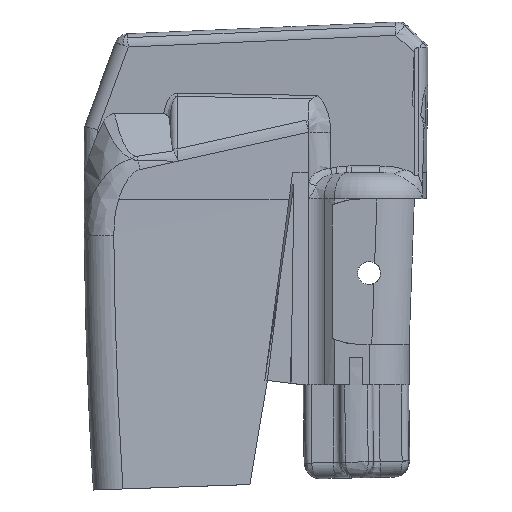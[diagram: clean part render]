
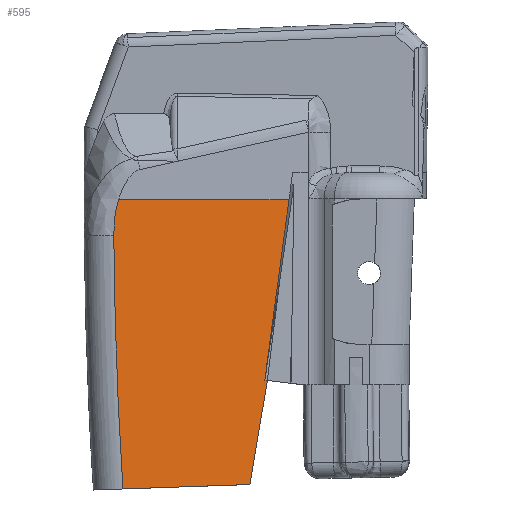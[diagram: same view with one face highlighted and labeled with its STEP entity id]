
A CAD part, left-side view. The second image highlights one B-rep face of the part: STEP entity #595.
In plain terms, the highlighted conical face has half-angle 83.166 degrees and reference radius 336.401 mm.
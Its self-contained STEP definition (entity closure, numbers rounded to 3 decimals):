
#520=CARTESIAN_POINT('',(-4.052,317.843,-5.5));
#521=DIRECTION('',(-1.,0.,0.));
#522=DIRECTION('',(0.,1.,0.));
#523=AXIS2_PLACEMENT_3D('',#520,#521,#522);
#524=CONICAL_SURFACE('',#523,336.401,83.166);
#525=CARTESIAN_POINT('',(-4.756,660.112,-5.5));
#526=VERTEX_POINT('',#525);
#527=CARTESIAN_POINT('',(-3.21,647.211,-5.5));
#528=VERTEX_POINT('',#527);
#529=CARTESIAN_POINT('',(-4.756,660.112,-5.5));
#530=DIRECTION('',(0.119,-0.993,-0.));
#531=VECTOR('',#530,12.994);
#532=LINE('',#529,#531);
#533=EDGE_CURVE('',#526,#528,#532,.T.);
#534=ORIENTED_EDGE('',*,*,#533,.F.);
#535=CARTESIAN_POINT('',(-4.801,660.482,-8.227));
#536=VERTEX_POINT('',#535);
#537=CARTESIAN_POINT('',(-4.801,660.482,-8.227));
#538=CARTESIAN_POINT('',(-4.801,660.482,-8.227));
#539=CARTESIAN_POINT('',(-4.801,660.482,-8.227));
#540=CARTESIAN_POINT('',(-4.801,660.482,-8.227));
#541=CARTESIAN_POINT('',(-4.801,660.482,-8.227));
#542=CARTESIAN_POINT('',(-4.801,660.482,-8.226));
#543=CARTESIAN_POINT('',(-4.801,660.482,-8.226));
#544=CARTESIAN_POINT('',(-4.801,660.488,-7.418));
#545=CARTESIAN_POINT('',(-4.789,660.388,-6.497));
#546=CARTESIAN_POINT('',(-4.76,660.144,-5.608));
#547=CARTESIAN_POINT('',(-4.756,660.112,-5.5));
#548=B_SPLINE_CURVE_WITH_KNOTS('',3,(#537,#538,#539,#540,#541,#542,#543,#544,#545,#546,#547),.UNSPECIFIED.,.F.,.F.,(4,3,3,1,4),(0.,0.,0.,0.243,0.276),.UNSPECIFIED.);
#549=EDGE_CURVE('NONE',#536,#526,#548,.T.);
#550=ORIENTED_EDGE('',*,*,#549,.F.);
#551=CARTESIAN_POINT('',(-4.801,659.789,-27.447));
#552=VERTEX_POINT('',#551);
#553=CARTESIAN_POINT('',(-4.801,317.843,-5.5));
#554=DIRECTION('',(1.,0.,0.));
#555=DIRECTION('',(0.,0.,-1.));
#556=AXIS2_PLACEMENT_3D('',#553,#554,#555);
#557=CIRCLE('',#556,342.65);
#558=EDGE_CURVE('NONE',#552,#536,#557,.T.);
#559=ORIENTED_EDGE('',*,*,#558,.F.);
#560=CARTESIAN_POINT('',(-3.648,650.167,-27.111));
#561=VERTEX_POINT('',#560);
#562=CARTESIAN_POINT('',(-3.648,650.167,-27.111));
#563=CARTESIAN_POINT('',(-4.032,653.375,-27.223));
#564=CARTESIAN_POINT('',(-4.417,656.582,-27.335));
#565=CARTESIAN_POINT('',(-4.801,659.789,-27.447));
#566=B_SPLINE_CURVE_WITH_KNOTS('',3,(#562,#563,#564,#565),.UNSPECIFIED.,.F.,.F.,(4,4),(0.,0.01),.UNSPECIFIED.);
#567=EDGE_CURVE('NONE',#561,#552,#566,.T.);
#568=ORIENTED_EDGE('',*,*,#567,.F.);
#569=CARTESIAN_POINT('',(-3.441,648.855,-19.227));
#570=VERTEX_POINT('',#569);
#571=CARTESIAN_POINT('',(-3.441,648.855,-19.227));
#572=CARTESIAN_POINT('',(-3.507,649.297,-21.854));
#573=CARTESIAN_POINT('',(-3.576,649.734,-24.482));
#574=CARTESIAN_POINT('',(-3.648,650.167,-27.111));
#575=B_SPLINE_CURVE_WITH_KNOTS('',3,(#571,#572,#573,#574),.UNSPECIFIED.,.F.,.F.,(4,4),(0.,0.008),.UNSPECIFIED.);
#576=EDGE_CURVE('NONE',#570,#561,#575,.T.);
#577=ORIENTED_EDGE('',*,*,#576,.F.);
#578=CARTESIAN_POINT('',(-3.463,649.044,-19.203));
#579=VERTEX_POINT('',#578);
#580=CARTESIAN_POINT('',(-3.463,649.044,-19.203));
#581=DIRECTION('',(0.117,-0.985,-0.123));
#582=VECTOR('',#581,0.192);
#583=LINE('',#580,#582);
#584=EDGE_CURVE('NONE',#579,#570,#583,.T.);
#585=ORIENTED_EDGE('',*,*,#584,.F.);
#586=CARTESIAN_POINT('',(-3.463,649.044,-19.203));
#587=CARTESIAN_POINT('',(-3.369,648.443,-14.634));
#588=CARTESIAN_POINT('',(-3.284,647.832,-10.066));
#589=CARTESIAN_POINT('',(-3.21,647.211,-5.5));
#590=B_SPLINE_CURVE_WITH_KNOTS('',3,(#586,#587,#588,#589),.UNSPECIFIED.,.F.,.F.,(4,4),(0.,0.014),.UNSPECIFIED.);
#591=EDGE_CURVE('NONE',#579,#528,#590,.T.);
#592=ORIENTED_EDGE('',*,*,#591,.T.);
#593=EDGE_LOOP('',(#534,#550,#559,#568,#577,#585,#592));
#594=FACE_BOUND('',#593,.T.);
#595=ADVANCED_FACE('NONE',(#594),#524,.F.);
